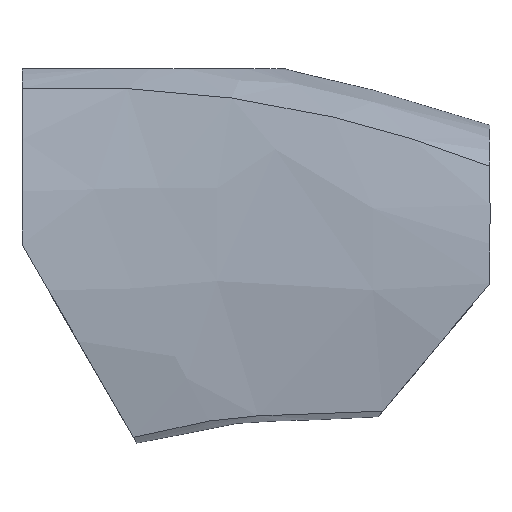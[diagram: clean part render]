
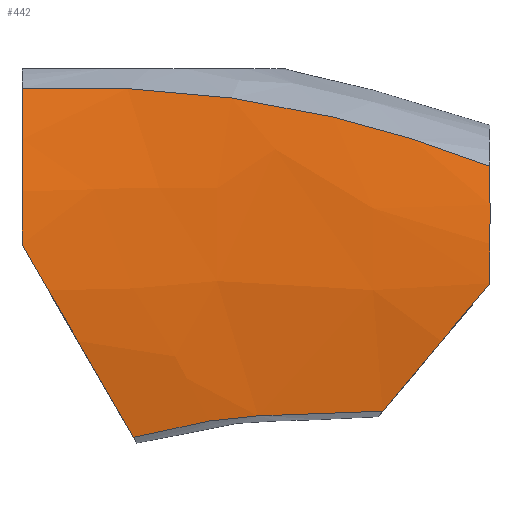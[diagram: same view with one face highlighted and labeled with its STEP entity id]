
A CAD part, top view. The second image highlights one B-rep face of the part: STEP entity #442.
In plain terms, the highlighted free-form (B-spline) face has degree [3, 3] with [5, 10] control points.
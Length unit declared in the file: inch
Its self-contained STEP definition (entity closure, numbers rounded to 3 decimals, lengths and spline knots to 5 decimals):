
#17=B_SPLINE_SURFACE_WITH_KNOTS('',3,3,((#835,#836,#837,#838,#839,#840,
#841,#842,#843,#844),(#845,#846,#847,#848,#849,#850,#851,#852,#853,#854),
(#855,#856,#857,#858,#859,#860,#861,#862,#863,#864),(#865,#866,#867,#868,
#869,#870,#871,#872,#873,#874),(#875,#876,#877,#878,#879,#880,#881,#882,
#883,#884)),.UNSPECIFIED.,.F.,.F.,.F.,(4,1,4),(4,2,2,2,4),(0.,0.57143,
1.),(0.,0.20655,0.41524,0.7478,1.),
 .UNSPECIFIED.);
#32=B_SPLINE_CURVE_WITH_KNOTS('',3,(#701,#702,#703,#704),.UNSPECIFIED.,
 .F.,.F.,(4,4),(-1.42368,0.),.UNSPECIFIED.);
#34=B_SPLINE_CURVE_WITH_KNOTS('',3,(#815,#816,#817,#818,#819,#820,#821,
#822,#823,#824),.UNSPECIFIED.,.F.,.F.,(4,2,2,2,4),(0.,0.20655,
0.41524,0.7478,1.),.UNSPECIFIED.);
#36=B_SPLINE_CURVE_WITH_KNOTS('',3,(#886,#887,#888,#889,#890,#891,#892,
#893),.UNSPECIFIED.,.F.,.F.,(4,2,2,4),(0.23642,0.41524,
0.7478,0.76852),.UNSPECIFIED.);
#37=B_SPLINE_CURVE_WITH_KNOTS('',3,(#894,#895,#896,#897),.UNSPECIFIED.,
 .F.,.F.,(4,4),(-1.00092,0.),.UNSPECIFIED.);
#58=CIRCLE('',#475,1.30321);
#59=CIRCLE('',#478,1.4277);
#78=FACE_OUTER_BOUND('',#100,.T.);
#100=EDGE_LOOP('',(#375,#376,#377,#378,#379,#380));
#196=VERTEX_POINT('',#673);
#197=VERTEX_POINT('',#700);
#202=VERTEX_POINT('',#715);
#203=VERTEX_POINT('',#717);
#206=VERTEX_POINT('',#749);
#208=VERTEX_POINT('',#885);
#253=EDGE_CURVE('',#196,#197,#32,.T.);
#260=EDGE_CURVE('',#202,#203,#58,.T.);
#264=EDGE_CURVE('',#206,#197,#59,.T.);
#268=EDGE_CURVE('',#206,#202,#34,.T.);
#270=EDGE_CURVE('',#196,#208,#36,.T.);
#271=EDGE_CURVE('',#208,#203,#37,.T.);
#375=ORIENTED_EDGE('',*,*,#253,.F.);
#376=ORIENTED_EDGE('',*,*,#270,.T.);
#377=ORIENTED_EDGE('',*,*,#271,.T.);
#378=ORIENTED_EDGE('',*,*,#260,.F.);
#379=ORIENTED_EDGE('',*,*,#268,.F.);
#380=ORIENTED_EDGE('',*,*,#264,.T.);
#442=ADVANCED_FACE('',(#78),#17,.T.);
#475=AXIS2_PLACEMENT_3D('',#718,#568,#569);
#478=AXIS2_PLACEMENT_3D('',#750,#576,#577);
#568=DIRECTION('center_axis',(1.,0.,0.));
#569=DIRECTION('ref_axis',(0.,0.23,0.973));
#576=DIRECTION('center_axis',(1.,0.,0.));
#577=DIRECTION('ref_axis',(0.,0.315,0.949));
#673=CARTESIAN_POINT('',(0.28592,-0.49523,0.30005));
#700=CARTESIAN_POINT('',(0.,0.,0.37212));
#701=CARTESIAN_POINT('Ctrl Pts',(0.28592,-0.49523,0.30005));
#702=CARTESIAN_POINT('Ctrl Pts',(0.19382,-0.33571,0.33677));
#703=CARTESIAN_POINT('Ctrl Pts',(0.0934,-0.16178,
0.36868));
#704=CARTESIAN_POINT('Ctrl Pts',(0.,0.,
0.37212));
#715=CARTESIAN_POINT('',(1.2,0.2,0.275));
#717=CARTESIAN_POINT('',(1.2,-0.1,0.31));
#718=CARTESIAN_POINT('Origin',(1.2,-0.1,-0.99321));
#749=CARTESIAN_POINT('',(0.,0.4,0.30023));
#750=CARTESIAN_POINT('Origin',(0.,-0.05,
-1.0547));
#815=CARTESIAN_POINT('Ctrl Pts',(0.,0.4,0.30023));
#816=CARTESIAN_POINT('Ctrl Pts',(0.08376,0.40328,0.30011));
#817=CARTESIAN_POINT('Ctrl Pts',(0.16709,0.40328,0.30004));
#818=CARTESIAN_POINT('Ctrl Pts',(0.33377,0.39668,0.29996));
#819=CARTESIAN_POINT('Ctrl Pts',(0.41654,0.39055,0.30121));
#820=CARTESIAN_POINT('Ctrl Pts',(0.633,0.36319,0.29807));
#821=CARTESIAN_POINT('Ctrl Pts',(0.7675,0.3365,0.28966));
#822=CARTESIAN_POINT('Ctrl Pts',(1.00048,0.27232,0.28147));
#823=CARTESIAN_POINT('Ctrl Pts',(1.10048,0.23899,0.27814));
#824=CARTESIAN_POINT('Ctrl Pts',(1.2,0.2,0.275));
#835=CARTESIAN_POINT('Ctrl Pts',(0.,0.4,0.30023));
#836=CARTESIAN_POINT('Ctrl Pts',(0.08376,0.40328,0.30011));
#837=CARTESIAN_POINT('Ctrl Pts',(0.16709,0.40328,0.30004));
#838=CARTESIAN_POINT('Ctrl Pts',(0.33377,0.39668,0.29996));
#839=CARTESIAN_POINT('Ctrl Pts',(0.41654,0.39055,0.30121));
#840=CARTESIAN_POINT('Ctrl Pts',(0.633,0.36319,0.29807));
#841=CARTESIAN_POINT('Ctrl Pts',(0.7675,0.3365,0.28966));
#842=CARTESIAN_POINT('Ctrl Pts',(1.00048,0.27232,0.28147));
#843=CARTESIAN_POINT('Ctrl Pts',(1.10048,0.23899,0.27814));
#844=CARTESIAN_POINT('Ctrl Pts',(1.2,0.2,0.275));
#845=CARTESIAN_POINT('Ctrl Pts',(0.,0.23449,
0.3552));
#846=CARTESIAN_POINT('Ctrl Pts',(0.08376,0.23431,0.34906));
#847=CARTESIAN_POINT('Ctrl Pts',(0.16709,0.23328,0.34331));
#848=CARTESIAN_POINT('Ctrl Pts',(0.33377,0.22946,0.33251));
#849=CARTESIAN_POINT('Ctrl Pts',(0.41654,0.22959,0.32682));
#850=CARTESIAN_POINT('Ctrl Pts',(0.633,0.21251,0.31644));
#851=CARTESIAN_POINT('Ctrl Pts',(0.7675,0.19004,0.31571));
#852=CARTESIAN_POINT('Ctrl Pts',(1.00048,0.14188,0.30846));
#853=CARTESIAN_POINT('Ctrl Pts',(1.10048,0.11692,0.30511));
#854=CARTESIAN_POINT('Ctrl Pts',(1.2,0.08778,0.30155));
#855=CARTESIAN_POINT('Ctrl Pts',(0.,-0.0729,
0.39767));
#856=CARTESIAN_POINT('Ctrl Pts',(0.08376,-0.07532,
0.38665));
#857=CARTESIAN_POINT('Ctrl Pts',(0.16709,-0.07506,0.37636));
#858=CARTESIAN_POINT('Ctrl Pts',(0.33377,-0.06917,
0.35714));
#859=CARTESIAN_POINT('Ctrl Pts',(0.41654,-0.0563,
0.34619));
#860=CARTESIAN_POINT('Ctrl Pts',(0.633,-0.05303,
0.33023));
#861=CARTESIAN_POINT('Ctrl Pts',(0.7675,-0.07082,0.33542));
#862=CARTESIAN_POINT('Ctrl Pts',(1.00048,-0.0919,0.32894));
#863=CARTESIAN_POINT('Ctrl Pts',(1.10048,-0.10256,0.32562));
#864=CARTESIAN_POINT('Ctrl Pts',(1.2,-0.1148,0.32177));
#865=CARTESIAN_POINT('Ctrl Pts',(0.,-0.37585,
0.34146));
#866=CARTESIAN_POINT('Ctrl Pts',(0.08376,-0.38147,
0.33683));
#867=CARTESIAN_POINT('Ctrl Pts',(0.16709,-0.3807,0.33249));
#868=CARTESIAN_POINT('Ctrl Pts',(0.33377,-0.3663,0.32437));
#869=CARTESIAN_POINT('Ctrl Pts',(0.41654,-0.34113,0.32042));
#870=CARTESIAN_POINT('Ctrl Pts',(0.633,-0.3181,0.31185));
#871=CARTESIAN_POINT('Ctrl Pts',(0.7675,-0.33053,0.3092));
#872=CARTESIAN_POINT('Ctrl Pts',(1.00048,-0.3243,0.30171));
#873=CARTESIAN_POINT('Ctrl Pts',(1.10048,-0.32058,0.29837));
#874=CARTESIAN_POINT('Ctrl Pts',(1.2,-0.31583,0.29491));
#875=CARTESIAN_POINT('Ctrl Pts',(0.,-0.49998,
0.30023));
#876=CARTESIAN_POINT('Ctrl Pts',(0.08376,-0.50819,0.30012));
#877=CARTESIAN_POINT('Ctrl Pts',(0.16709,-0.5082,0.30004));
#878=CARTESIAN_POINT('Ctrl Pts',(0.33377,-0.49171,0.29996));
#879=CARTESIAN_POINT('Ctrl Pts',(0.41654,-0.46185,0.30121));
#880=CARTESIAN_POINT('Ctrl Pts',(0.633,-0.43111,0.29807));
#881=CARTESIAN_POINT('Ctrl Pts',(0.7675,-0.44037,0.28966));
#882=CARTESIAN_POINT('Ctrl Pts',(1.00048,-0.42213,0.28147));
#883=CARTESIAN_POINT('Ctrl Pts',(1.10048,-0.41213,0.27814));
#884=CARTESIAN_POINT('Ctrl Pts',(1.2,-0.4,0.275));
#885=CARTESIAN_POINT('',(0.92476,-0.42802,0.28413));
#886=CARTESIAN_POINT('Ctrl Pts',(0.28592,-0.49523,0.30005));
#887=CARTESIAN_POINT('Ctrl Pts',(0.35748,-0.48353,0.30027));
#888=CARTESIAN_POINT('Ctrl Pts',(0.42848,-0.46016,0.30104));
#889=CARTESIAN_POINT('Ctrl Pts',(0.633,-0.43111,0.29807));
#890=CARTESIAN_POINT('Ctrl Pts',(0.7675,-0.44037,0.28966));
#891=CARTESIAN_POINT('Ctrl Pts',(0.90826,-0.42935,0.28471));
#892=CARTESIAN_POINT('Ctrl Pts',(0.91651,-0.42869,0.28442));
#893=CARTESIAN_POINT('Ctrl Pts',(0.92476,-0.42802,0.28413));
#894=CARTESIAN_POINT('Ctrl Pts',(0.92476,-0.42802,0.28413));
#895=CARTESIAN_POINT('Ctrl Pts',(1.02183,-0.31233,0.30194));
#896=CARTESIAN_POINT('Ctrl Pts',(1.11559,-0.2006,0.31312));
#897=CARTESIAN_POINT('Ctrl Pts',(1.2,-0.1,0.31));
